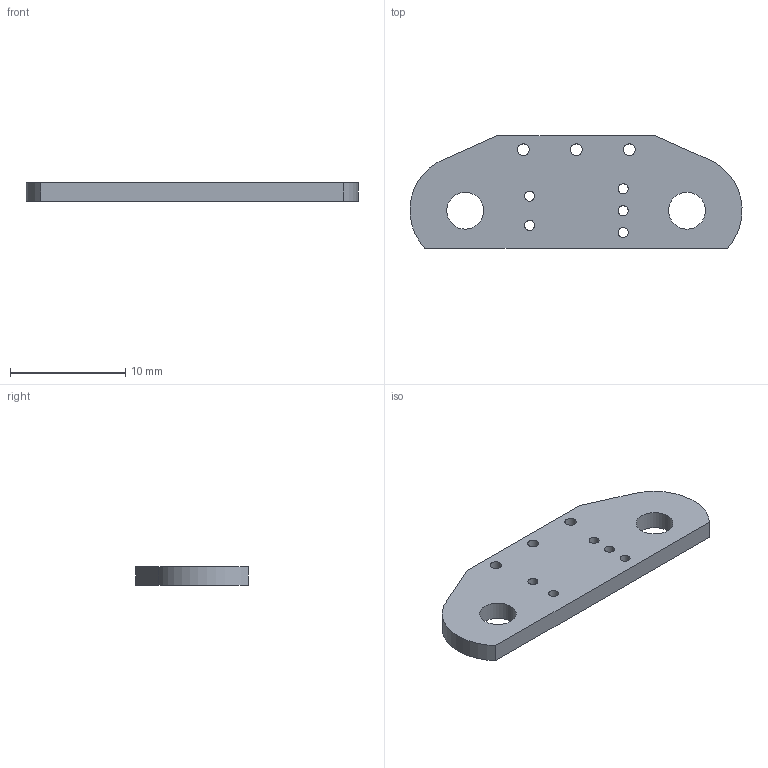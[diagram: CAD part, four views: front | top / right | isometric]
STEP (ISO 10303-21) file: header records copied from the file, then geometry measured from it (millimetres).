
FILE_DESCRIPTION(('KiCad electronic assembly'),'2;1');
FILE_NAME('Tap_Photosensor_PCB_Short.STEP','2022-07-26T10:46:11',( 'Pcbnew'),('Kicad'),'Open CASCADE STEP processor 7.5', 'KiCad to STEP converter','Unknown');
FILE_SCHEMA(('AUTOMOTIVE_DESIGN { 1 0 10303 214 1 1 1 1 }'));
Length unit declared in the file: millimetre
Products named in the file (2): Tap_Photosensor_PCB_Short 1; Tap_Photosensor_PCB PCB
Assembly tree (1 placements, depth 2):
  Tap_Photosensor_PCB_Short 1
    Tap_Photosensor_PCB PCB
Bounding box: 28.82 x 9.75 x 1.6 mm (x, y, z)
Volume: 365.5 mm3; surface area: 635.7 mm2
Topology: 1 solids, 1 shells, 18 faces, 48 edges, 32 vertices
Faces by surface type: cylinder 12, plane 6
Full cylindrical faces by diameter (mm): 0.87 x5, 1 x3, 3.2 x2
Entity records: 1359 total; most frequent: CARTESIAN_POINT 340, DIRECTION 184, ORIENTED_EDGE 96, LINE 96, VECTOR 96, PCURVE 96, DEFINITIONAL_REPRESENTATION 96, EDGE_CURVE 48
